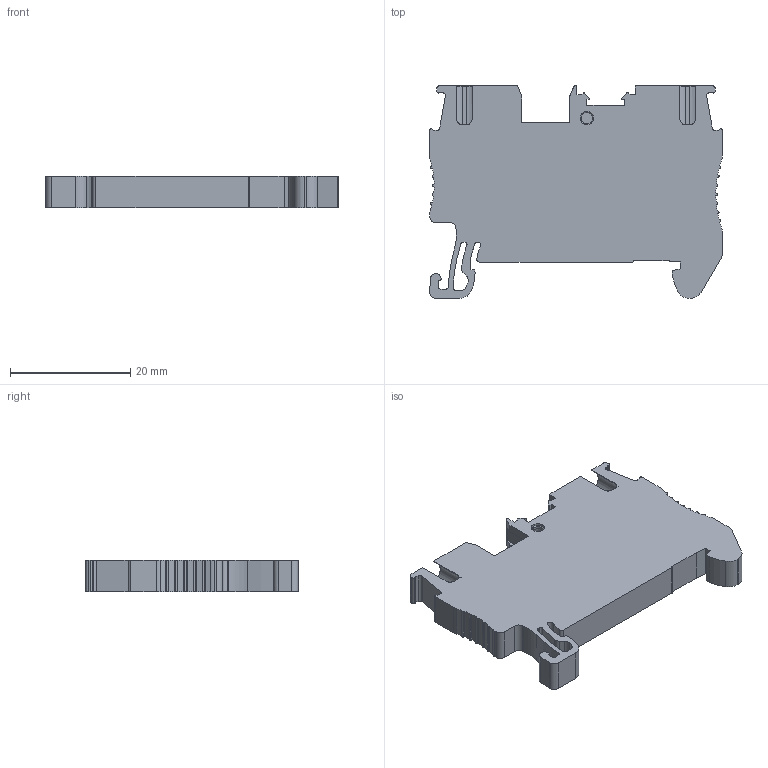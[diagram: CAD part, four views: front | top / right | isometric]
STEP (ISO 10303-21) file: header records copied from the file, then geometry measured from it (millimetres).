
FILE_DESCRIPTION((''),'2;1');
FILE_NAME('UPT-2-5ASSY','2024-03-29T15:54:39',('Administrator'),(''),'CREO PARAMETRIC BY PTC INC, 2018050','CREO PARAMETRIC BY PTC INC, 2018050','');
FILE_SCHEMA(('CONFIG_CONTROL_DESIGN'));
Length unit declared in the file: millimetre
Products named in the file (1): UPT-2-5ASSY
Bounding box: 48.6 x 35.3 x 5.2 mm (x, y, z)
Volume: 5958 mm3; surface area: 5216.8 mm2
Topology: 1 solids, 3 shells, 487 faces, 1473 edges, 990 vertices
Faces by surface type: plane 283, cylinder 174, cone 16, torus 14
Entity records: 16838 total; most frequent: CARTESIAN_POINT 3329, ORIENTED_EDGE 2930, DIRECTION 2769, EDGE_CURVE 1465, VERTEX_POINT 990, VECTOR 967, LINE 967, AXIS2_PLACEMENT_3D 901
